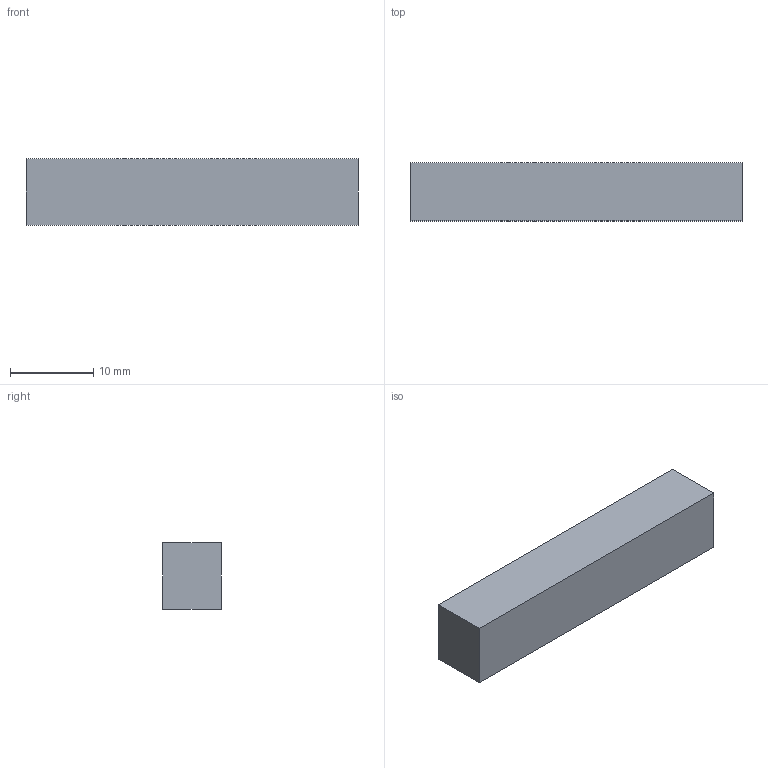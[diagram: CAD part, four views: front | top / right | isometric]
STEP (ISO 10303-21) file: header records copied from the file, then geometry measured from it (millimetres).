
FILE_DESCRIPTION(('Open CASCADE Model'),'2;1');
FILE_NAME('Open CASCADE Shape Model','2026-09-08T13:32:10',('Author'),( 'Open CASCADE'),'Open CASCADE STEP processor 7.7','Open CASCADE 7.7' ,'Unknown');
FILE_SCHEMA(('AUTOMOTIVE_DESIGN { 1 0 10303 214 1 1 1 1 }'));
Length unit declared in the file: millimetre
Products named in the file (1): Open CASCADE STEP translator 7.7 39
Bounding box: 40 x 7 x 8 mm (x, y, z)
Volume: 2240 mm3; surface area: 1312 mm2
Topology: 1 solids, 1 shells, 6 faces, 12 edges, 8 vertices
Faces by surface type: plane 6
Entity records: 322 total; most frequent: CARTESIAN_POINT 51, DIRECTION 50, LINE 36, VECTOR 36, ORIENTED_EDGE 24, PCURVE 24, DEFINITIONAL_REPRESENTATION 24, EDGE_CURVE 12
